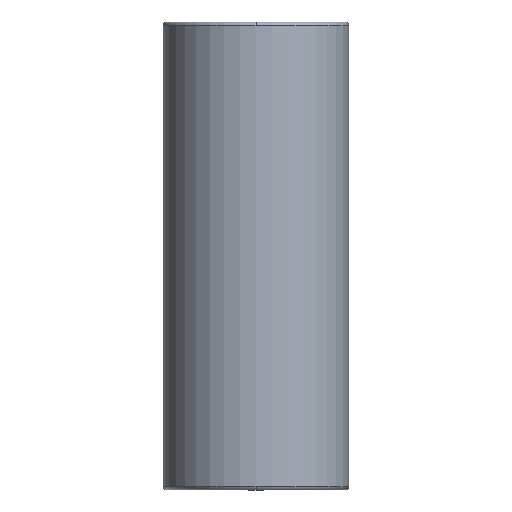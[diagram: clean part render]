
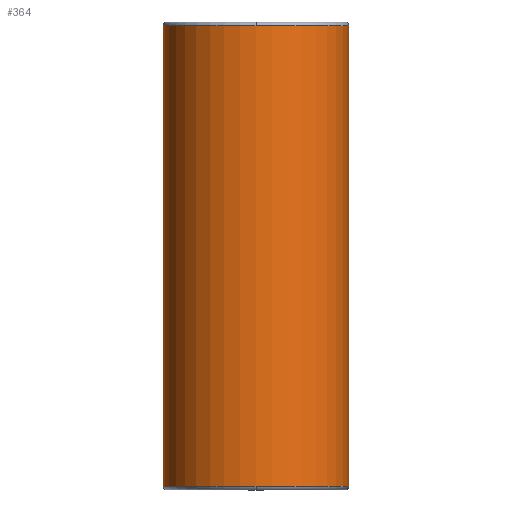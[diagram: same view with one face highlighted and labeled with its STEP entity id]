
A CAD part, front view. The second image highlights one B-rep face of the part: STEP entity #364.
In plain terms, the highlighted cylindrical face has radius 47.492 mm (diameter 94.984 mm), a partial arc.
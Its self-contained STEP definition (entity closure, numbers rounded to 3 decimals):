
#269=CARTESIAN_POINT('',(0.0,-47.492,238.0));
#270=VERTEX_POINT('',#269);
#296=CARTESIAN_POINT('',(-47.492,0.,238.0));
#297=VERTEX_POINT('',#296);
#305=CARTESIAN_POINT('',(0.0,0.,238.0));
#306=DIRECTION('',(0.0,0.0,1.0));
#307=DIRECTION('',(1.0,0.0,0.0));
#308=AXIS2_PLACEMENT_3D('',#305,#306,#307);
#309=CIRCLE('',#308,47.492);
#310=EDGE_CURVE('',#297,#270,#309,.T.);
#315=CARTESIAN_POINT('',(0.0,0.,120.0));
#316=DIRECTION('',(0.0,0.,1.0));
#317=DIRECTION('',(1.0,0.0,0.0));
#318=AXIS2_PLACEMENT_3D('',#315,#316,#317);
#319=CYLINDRICAL_SURFACE('',#318,47.492);
#320=CARTESIAN_POINT('',(47.492,0.,238.0));
#321=VERTEX_POINT('',#320);
#322=CARTESIAN_POINT('',(47.492,0.,2.));
#323=VERTEX_POINT('',#322);
#324=CARTESIAN_POINT('',(47.492,0.,238.0));
#325=DIRECTION('',(0.0,0.0,-1.0));
#326=VECTOR('',#325,236.0);
#327=LINE('',#324,#326);
#328=EDGE_CURVE('',#321,#323,#327,.T.);
#329=ORIENTED_EDGE('',*,*,#328,.F.);
#330=CARTESIAN_POINT('',(0.0,0.,238.0));
#331=DIRECTION('',(0.0,0.0,1.0));
#332=DIRECTION('',(1.0,0.0,0.0));
#333=AXIS2_PLACEMENT_3D('',#330,#331,#332);
#334=CIRCLE('',#333,47.492);
#335=EDGE_CURVE('',#270,#321,#334,.T.);
#336=ORIENTED_EDGE('',*,*,#335,.F.);
#337=ORIENTED_EDGE('',*,*,#310,.F.);
#338=CARTESIAN_POINT('',(-47.492,0.,2.0));
#339=VERTEX_POINT('',#338);
#340=CARTESIAN_POINT('',(-47.492,0.,238.0));
#341=DIRECTION('',(0.0,0.0,-1.0));
#342=VECTOR('',#341,236.0);
#343=LINE('',#340,#342);
#344=EDGE_CURVE('',#297,#339,#343,.T.);
#345=ORIENTED_EDGE('',*,*,#344,.T.);
#346=CARTESIAN_POINT('',(0.0,-47.492,2.));
#347=VERTEX_POINT('',#346);
#348=CARTESIAN_POINT('',(0.0,0.,2.0));
#349=DIRECTION('',(0.0,0.0,1.0));
#350=DIRECTION('',(1.0,0.0,0.0));
#351=AXIS2_PLACEMENT_3D('',#348,#349,#350);
#352=CIRCLE('',#351,47.492);
#353=EDGE_CURVE('',#339,#347,#352,.T.);
#354=ORIENTED_EDGE('',*,*,#353,.T.);
#355=CARTESIAN_POINT('',(0.0,0.,2.0));
#356=DIRECTION('',(0.0,0.0,1.0));
#357=DIRECTION('',(1.0,0.0,0.0));
#358=AXIS2_PLACEMENT_3D('',#355,#356,#357);
#359=CIRCLE('',#358,47.492);
#360=EDGE_CURVE('',#347,#323,#359,.T.);
#361=ORIENTED_EDGE('',*,*,#360,.T.);
#362=EDGE_LOOP('',(#329,#336,#337,#345,#354,#361));
#363=FACE_OUTER_BOUND('',#362,.T.);
#364=ADVANCED_FACE('',(#363),#319,.T.);
